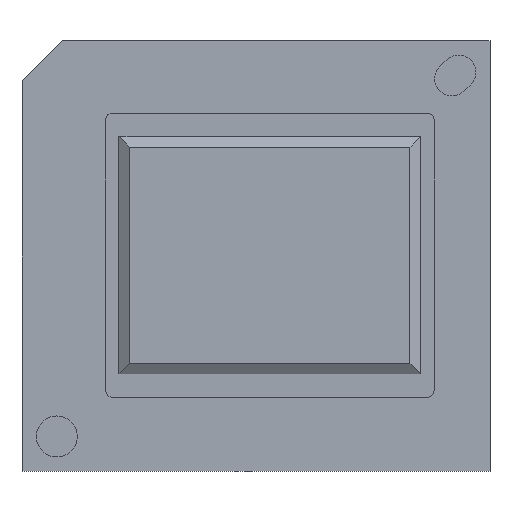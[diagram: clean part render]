
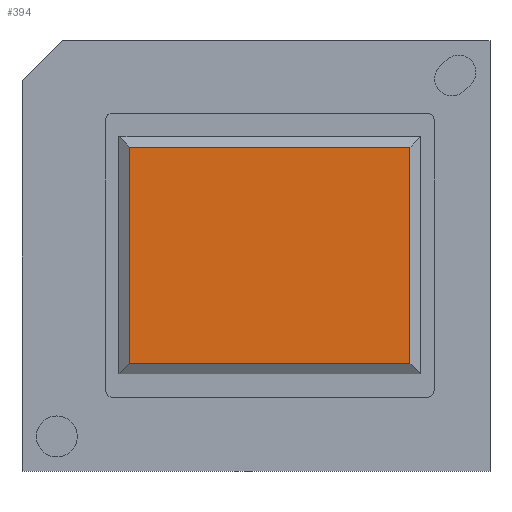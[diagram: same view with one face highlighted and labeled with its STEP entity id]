
A CAD part, top view. The second image highlights one B-rep face of the part: STEP entity #394.
In plain terms, the highlighted planar face has unit normal (0, 0, 1) as drawn and (0, 1, 0) by its records, which use the part's own axes.
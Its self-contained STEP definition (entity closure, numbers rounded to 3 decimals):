
#394 = ADVANCED_FACE ( 'NONE', ( #52854 ), #21185, .F. ) ;
#2198 = CARTESIAN_POINT ( 'NONE',  ( 10.48, 1.1, 8.078 ) ) ;
#3167 = ORIENTED_EDGE ( 'NONE', *, *, #49103, .T. ) ;
#4159 = DIRECTION ( 'NONE',  ( -1., 0., 0. ) ) ;
#4165 = DIRECTION ( 'NONE',  ( 0., 0., -1. ) ) ;
#10830 = EDGE_CURVE ( 'NONE', #15938, #34333, #43913, .T. ) ;
#11306 = VECTOR ( 'NONE', #27161, 1000. ) ;
#12442 = VERTEX_POINT ( 'NONE', #2198 ) ;
#14557 = ORIENTED_EDGE ( 'NONE', *, *, #66407, .T. ) ;
#15938 = VERTEX_POINT ( 'NONE', #65634 ) ;
#16580 = VECTOR ( 'NONE', #58809, 1000. ) ;
#21151 = CARTESIAN_POINT ( 'NONE',  ( -10.48, 1.1, 8.078 ) ) ;
#21185 = PLANE ( 'NONE',  #67979 ) ;
#23608 = LINE ( 'NONE', #38532, #65920 ) ;
#25416 = EDGE_LOOP ( 'NONE', ( #58878, #3167, #14557, #28190 ) ) ;
#27161 = DIRECTION ( 'NONE',  ( 1., 0., 0. ) ) ;
#27413 = LINE ( 'NONE', #21151, #11306 ) ;
#28146 = CARTESIAN_POINT ( 'NONE',  ( -10.48, 1.1, 8.078 ) ) ;
#28190 = ORIENTED_EDGE ( 'NONE', *, *, #44306, .T. ) ;
#30044 = LINE ( 'NONE', #70106, #16580 ) ;
#34333 = VERTEX_POINT ( 'NONE', #28146 ) ;
#38532 = CARTESIAN_POINT ( 'NONE',  ( -10.48, 1.1, -8.078 ) ) ;
#43913 = LINE ( 'NONE', #60571, #45722 ) ;
#44306 = EDGE_CURVE ( 'NONE', #70089, #15938, #23608, .T. ) ;
#45722 = VECTOR ( 'NONE', #54071, 1000. ) ;
#49103 = EDGE_CURVE ( 'NONE', #34333, #12442, #27413, .T. ) ;
#50883 = CARTESIAN_POINT ( 'NONE',  ( 10.48, 1.1, -8.078 ) ) ;
#52854 = FACE_OUTER_BOUND ( 'NONE', #25416, .T. ) ;
#54071 = DIRECTION ( 'NONE',  ( 0., 0., 1. ) ) ;
#58809 = DIRECTION ( 'NONE',  ( 0., 0., -1. ) ) ;
#58878 = ORIENTED_EDGE ( 'NONE', *, *, #10830, .T. ) ;
#60571 = CARTESIAN_POINT ( 'NONE',  ( -10.48, 1.1, 8.078 ) ) ;
#61481 = CARTESIAN_POINT ( 'NONE',  ( -10.48, 1.1, -8.078 ) ) ;
#65634 = CARTESIAN_POINT ( 'NONE',  ( -10.48, 1.1, -8.078 ) ) ;
#65920 = VECTOR ( 'NONE', #4159, 1000. ) ;
#66407 = EDGE_CURVE ( 'NONE', #12442, #70089, #30044, .T. ) ;
#67979 = AXIS2_PLACEMENT_3D ( 'NONE', #61481, #72041, #4165 ) ;
#70089 = VERTEX_POINT ( 'NONE', #50883 ) ;
#70106 = CARTESIAN_POINT ( 'NONE',  ( 10.48, 1.1, 8.078 ) ) ;
#72041 = DIRECTION ( 'NONE',  ( 0., -1., 0. ) ) ;
